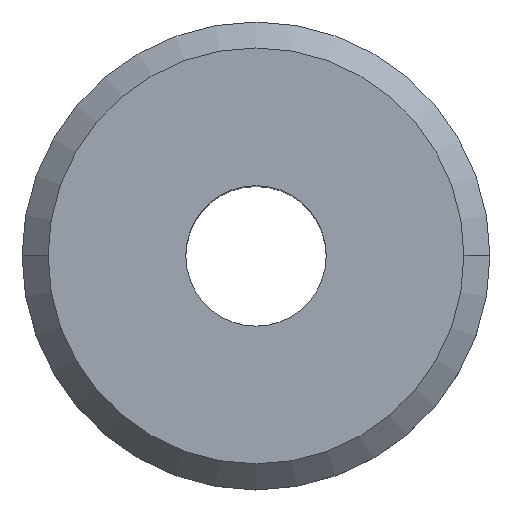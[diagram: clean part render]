
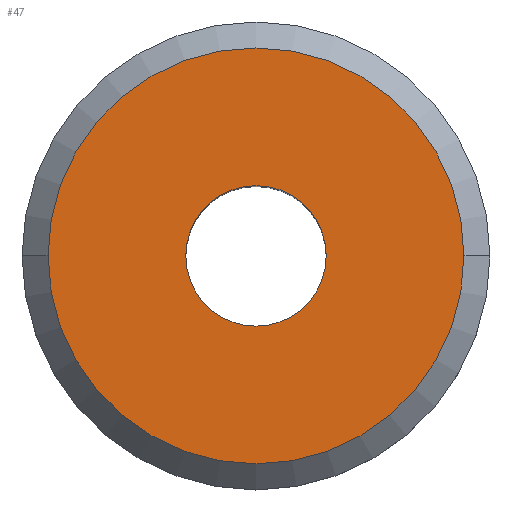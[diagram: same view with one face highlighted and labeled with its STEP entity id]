
A CAD part, top view. The second image highlights one B-rep face of the part: STEP entity #47.
In plain terms, the highlighted planar face has unit normal (0, 0, 1).
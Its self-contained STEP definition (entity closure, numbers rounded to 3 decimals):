
#27=FACE_BOUND('',#73,.F.);
#30=PLANE('',#249);
#47=ADVANCED_FACE('',(#27,#60),#30,.T.);
#60=FACE_OUTER_BOUND('',#74,.F.);
#73=EDGE_LOOP('',(#113,#114));
#74=EDGE_LOOP('',(#115,#116));
#113=ORIENTED_EDGE('',*,*,#186,.T.);
#114=ORIENTED_EDGE('',*,*,#168,.T.);
#115=ORIENTED_EDGE('',*,*,#185,.F.);
#116=ORIENTED_EDGE('',*,*,#167,.F.);
#167=EDGE_CURVE('',#218,#217,#193,.T.);
#168=EDGE_CURVE('',#216,#215,#194,.T.);
#185=EDGE_CURVE('',#217,#218,#201,.T.);
#186=EDGE_CURVE('',#215,#216,#202,.T.);
#193=CIRCLE('',#227,4.);
#194=CIRCLE('',#228,1.35);
#201=CIRCLE('',#235,4.);
#202=CIRCLE('',#236,1.35);
#215=VERTEX_POINT('',#336);
#216=VERTEX_POINT('',#337);
#217=VERTEX_POINT('',#338);
#218=VERTEX_POINT('',#339);
#227=AXIS2_PLACEMENT_3D('',#346,#261,#262);
#228=AXIS2_PLACEMENT_3D('',#347,#263,#264);
#235=AXIS2_PLACEMENT_3D('',#364,#287,#288);
#236=AXIS2_PLACEMENT_3D('',#365,#289,#290);
#249=AXIS2_PLACEMENT_3D('',#378,#315,#316);
#261=DIRECTION('',(0.,0.,1.));
#262=DIRECTION('',(-1.,0.,0.));
#263=DIRECTION('',(0.,0.,1.));
#264=DIRECTION('',(-1.,0.,0.));
#287=DIRECTION('',(0.,0.,1.));
#288=DIRECTION('',(1.,0.,0.));
#289=DIRECTION('',(0.,0.,1.));
#290=DIRECTION('',(1.,0.,0.));
#315=DIRECTION('',(0.,0.,1.));
#316=DIRECTION('',(0.,-1.,0.));
#336=CARTESIAN_POINT('',(314.225,419.252,560.674));
#337=CARTESIAN_POINT('',(311.525,419.252,560.674));
#338=CARTESIAN_POINT('',(316.875,419.252,560.674));
#339=CARTESIAN_POINT('',(308.875,419.252,560.674));
#346=CARTESIAN_POINT('',(312.875,419.252,560.674));
#347=CARTESIAN_POINT('',(312.875,419.252,560.674));
#364=CARTESIAN_POINT('',(312.875,419.252,560.674));
#365=CARTESIAN_POINT('',(312.875,419.252,560.674));
#378=CARTESIAN_POINT('',(308.795,423.332,560.674));
